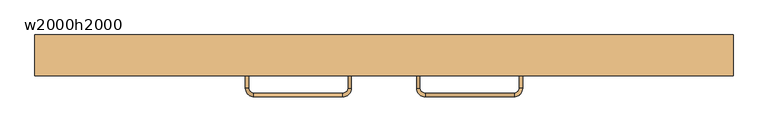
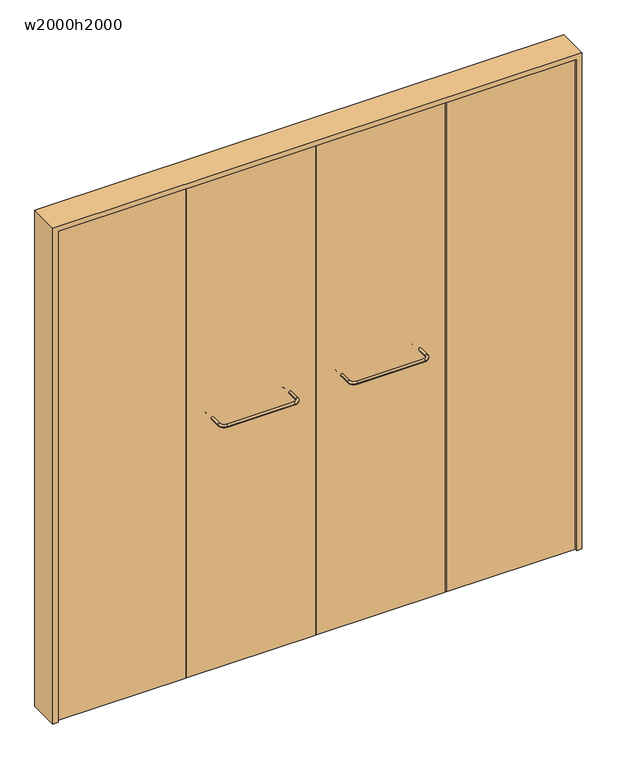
"""IFC4 building model written with IfcOpenShell, lengths in millimetres: door geometry, 木製折戸 : w2000h2000."""

from ifc_helpers import new_model, si_unit, point, frame, origin, origin_with_axes, place, context, project, spatial, polyline, circle_curve, ellipse_curve, trimmed, outline, extrude, source, transform, mapped, element, save
from ifc_brep_helpers import cylinder_surface, revolved_surface, advanced_brep


def w2000h2000_5dbb6d6a(model_context):
    return source(origin(), model_context, "Body", "SolidModel", [
        extrude(outline(polyline([(2020.0, -1020.0), (0.0, -1020.0), (0.0, -1000.0), (2000.0, -1000.0), (2000.0, 1000.0), (0.0, 1000.0), (0.0, 1020.0), (2020.0, 1020.0), (2020.0, -1020.0)])), frame((0.0, -60.0, 0.0), z_axis=(0.0, 1.0, 0.0), x_axis=(0.0, 0.0, 1.0)), (0.0, 0.0, 1.0), 120.0),
        extrude(outline(polyline([(498.0, -20.0), (498.0, -50.0), (2.0, -50.0), (2.0, -20.0), (498.0, -20.0)])), origin_with_axes(), (0.0, 0.0, 1.0), 2000.0),
        extrude(outline(polyline([(1000.0, -20.0), (1000.0, -50.0), (502.0, -50.0), (502.0, -20.0), (1000.0, -20.0)])), origin_with_axes(), (0.0, 0.0, 1.0), 2000.0),
        extrude(outline(polyline([(-2.0, -20.0), (-2.0, -50.0), (-498.0, -50.0), (-498.0, -20.0), (-2.0, -20.0)])), origin_with_axes(), (0.0, 0.0, 1.0), 2000.0),
        extrude(outline(polyline([(-502.0, -20.0), (-502.0, -50.0), (-1000.0, -50.0), (-1000.0, -20.0), (-502.0, -20.0)])), origin_with_axes(), (0.0, 0.0, 1.0), 2000.0),
        advanced_brep(
        [(95.0, -20.0, 1025.0), (105.0, -20.0, 1025.0), (120.0, -5.0, 1025.0), (120.0, 5.0, 1025.0), (95.0, -95.0, 1025.0), (105.0, -95.0, 1025.0), (120.0, -120.0, 1025.0), (120.0, -110.0, 1025.0), (380.0, -120.0, 1025.0), (380.0, -110.0, 1025.0), (405.0, -95.0, 1025.0), (395.0, -95.0, 1025.0), (405.0, -20.0, 1025.0), (395.0, -20.0, 1025.0), (380.0, 5.0, 1025.0), (380.0, -5.0, 1025.0)],
        [
            (0, 1, circle_curve(frame((100.0, -20.0, 1025.0), z_axis=(0.0, 1.0, 0.0), x_axis=(-1.0, 0.0, 0.0)), 5.0)),
            (1, 2, circle_curve(frame((120.0, -20.0, 1025.0), z_axis=(0.0, 0.0, -1.0), x_axis=(0.0, 1.0, 0.0)), 15.0)),
            (2, 3, circle_curve(frame((120.0, 0.0, 1025.0), z_axis=(-1.0, 0.0, 0.0), x_axis=(0.0, 1.0, 0.0)), 5.0)),
            (3, 0, circle_curve(frame((120.0, -20.0, 1025.0), z_axis=(0.0, 0.0, 1.0), x_axis=(0.0, 1.0, 0.0)), 25.0)),
            (1, 0, circle_curve(frame((100.0, -20.0, 1025.0), z_axis=(0.0, 1.0, 0.0), x_axis=(-1.0, 0.0, 0.0)), 5.0)),
            (3, 2, circle_curve(frame((120.0, 0.0, 1025.0), z_axis=(-1.0, 0.0, 0.0), x_axis=(0.0, 1.0, 0.0)), 5.0)),
            (0, 4),
            (4, 5, circle_curve(frame((100.0, -95.0, 1025.0), z_axis=(0.0, 1.0, 0.0), x_axis=(-1.0, 0.0, 0.0)), 5.0)),
            (5, 1),
            (5, 4, circle_curve(frame((100.0, -95.0, 1025.0), z_axis=(0.0, 1.0, 0.0), x_axis=(-1.0, 0.0, 0.0)), 5.0)),
            (6, 7, circle_curve(frame((120.0, -115.0, 1025.0), z_axis=(-1.0, 0.0, 0.0), x_axis=(0.0, -1.0, 0.0)), 5.0)),
            (7, 5, circle_curve(frame((120.0, -95.0, 1025.0), z_axis=(0.0, 0.0, -1.0), x_axis=(-1.0, 0.0, 0.0)), 15.0)),
            (4, 6, circle_curve(frame((120.0, -95.0, 1025.0), z_axis=(0.0, 0.0, 1.0), x_axis=(-1.0, 0.0, 0.0)), 25.0)),
            (7, 6, circle_curve(frame((120.0, -115.0, 1025.0), z_axis=(-1.0, 0.0, 0.0), x_axis=(0.0, -1.0, 0.0)), 5.0)),
            (6, 8),
            (8, 9, circle_curve(frame((380.0, -115.0, 1025.0), z_axis=(-1.0, 0.0, 0.0), x_axis=(0.0, -1.0, 0.0)), 5.0)),
            (9, 7),
            (9, 8, circle_curve(frame((380.0, -115.0, 1025.0), z_axis=(-1.0, 0.0, 0.0), x_axis=(0.0, -1.0, 0.0)), 5.0)),
            (10, 11, circle_curve(frame((400.0, -95.0, 1025.0), z_axis=(0.0, -1.0, 0.0), x_axis=(1.0, 0.0, 0.0)), 5.0)),
            (11, 9, circle_curve(frame((380.0, -95.0, 1025.0), z_axis=(0.0, 0.0, -1.0), x_axis=(0.0, -1.0, 0.0)), 15.0)),
            (8, 10, circle_curve(frame((380.0, -95.0, 1025.0), z_axis=(0.0, 0.0, 1.0), x_axis=(0.0, -1.0, 0.0)), 25.0)),
            (11, 10, circle_curve(frame((400.0, -95.0, 1025.0), z_axis=(0.0, -1.0, 0.0), x_axis=(1.0, 0.0, 0.0)), 5.0)),
            (10, 12),
            (12, 13, circle_curve(frame((400.0, -20.0, 1025.0), z_axis=(0.0, -1.0, 0.0), x_axis=(1.0, 0.0, 0.0)), 5.0)),
            (13, 11),
            (13, 12, circle_curve(frame((400.0, -20.0, 1025.0), z_axis=(0.0, -1.0, 0.0), x_axis=(1.0, 0.0, 0.0)), 5.0)),
            (14, 15, circle_curve(frame((380.0, 0.0, 1025.0), z_axis=(1.0, 0.0, 0.0), x_axis=(0.0, 1.0, 0.0)), 5.0)),
            (15, 13, circle_curve(frame((380.0, -20.0, 1025.0), z_axis=(0.0, 0.0, -1.0), x_axis=(1.0, 0.0, 0.0)), 15.0)),
            (12, 14, circle_curve(frame((380.0, -20.0, 1025.0), z_axis=(0.0, 0.0, 1.0), x_axis=(1.0, 0.0, 0.0)), 25.0)),
            (15, 14, circle_curve(frame((380.0, 0.0, 1025.0), z_axis=(1.0, 0.0, 0.0), x_axis=(0.0, 1.0, 0.0)), 5.0)),
            (14, 3),
            (2, 15),
        ],
        [
            revolved_surface(trimmed(ellipse_curve(frame((120.0, 0.0, 1025.0), z_axis=(-1.0, 0.0, 0.0), x_axis=(0.0, 1.0, 0.0)), 5.0, 5.0), [point((120.0, -5.0, 1025.0))], [point((120.0, 5.0, 1025.0))], True, "CARTESIAN"), (120.0, -20.0, 0.0), (0.0, 0.0, -1.0)),
            revolved_surface(trimmed(ellipse_curve(frame((120.0, 0.0, 1025.0), z_axis=(-1.0, 0.0, 0.0), x_axis=(0.0, 1.0, 0.0)), 5.0, 5.0), [point((120.0, 5.0, 1025.0))], [point((120.0, -5.0, 1025.0))], True, "CARTESIAN"), (120.0, -20.0, 0.0), (0.0, 0.0, -1.0)),
            cylinder_surface(frame((100.0, -20.0, 1025.0), z_axis=(0.0, 1.0, 0.0), x_axis=(-1.0, 0.0, 0.0)), 5.0),
            revolved_surface(trimmed(ellipse_curve(frame((100.0, -95.0, 1025.0), z_axis=(0.0, -1.0, 0.0), x_axis=(-1.0, 0.0, 0.0)), 5.0, 5.0), [point((105.0, -95.0, 1025.0))], [point((95.0, -95.0, 1025.0))], True, "CARTESIAN"), (120.0, -95.0, 0.0), (0.0, 0.0, -1.0)),
            revolved_surface(trimmed(ellipse_curve(frame((100.0, -95.0, 1025.0), z_axis=(0.0, -1.0, 0.0), x_axis=(-1.0, 0.0, 0.0)), 5.0, 5.0), [point((95.0, -95.0, 1025.0))], [point((105.0, -95.0, 1025.0))], True, "CARTESIAN"), (120.0, -95.0, 0.0), (0.0, 0.0, -1.0)),
            cylinder_surface(frame((120.0, -115.0, 1025.0), z_axis=(-1.0, 0.0, 0.0), x_axis=(0.0, -1.0, 0.0)), 5.0),
            revolved_surface(trimmed(ellipse_curve(frame((380.0, -115.0, 1025.0), z_axis=(1.0, 0.0, 0.0), x_axis=(0.0, -1.0, 0.0)), 5.0, 5.0), [point((380.0, -110.0, 1025.0))], [point((380.0, -120.0, 1025.0))], True, "CARTESIAN"), (380.0, -95.0, 0.0), (0.0, 0.0, -1.0)),
            revolved_surface(trimmed(ellipse_curve(frame((380.0, -115.0, 1025.0), z_axis=(1.0, 0.0, 0.0), x_axis=(0.0, -1.0, 0.0)), 5.0, 5.0), [point((380.0, -120.0, 1025.0))], [point((380.0, -110.0, 1025.0))], True, "CARTESIAN"), (380.0, -95.0, 0.0), (0.0, 0.0, -1.0)),
            cylinder_surface(frame((400.0, -95.0, 1025.0), z_axis=(0.0, -1.0, 0.0), x_axis=(1.0, 0.0, 0.0)), 5.0),
            revolved_surface(trimmed(ellipse_curve(frame((400.0, -20.0, 1025.0), z_axis=(0.0, 1.0, 0.0), x_axis=(1.0, 0.0, 0.0)), 5.0, 5.0), [point((395.0, -20.0, 1025.0))], [point((405.0, -20.0, 1025.0))], True, "CARTESIAN"), (380.0, -20.0, 0.0), (0.0, 0.0, -1.0)),
            revolved_surface(trimmed(ellipse_curve(frame((400.0, -20.0, 1025.0), z_axis=(0.0, 1.0, 0.0), x_axis=(1.0, 0.0, 0.0)), 5.0, 5.0), [point((405.0, -20.0, 1025.0))], [point((395.0, -20.0, 1025.0))], True, "CARTESIAN"), (380.0, -20.0, 0.0), (0.0, 0.0, -1.0)),
            cylinder_surface(frame((380.0, 0.0, 1025.0), z_axis=(1.0, 0.0, 0.0), x_axis=(0.0, 1.0, 0.0)), 5.0),
        ],
        [
            (0, [[1, 2, 3, 4]]),
            (1, [[5, -4, 6, -2]]),
            (2, [[7, 8, 9, -1]]),
            (2, [[-9, 10, -7, -5]]),
            (3, [[11, 12, -8, 13]]),
            (4, [[14, -13, -10, -12]]),
            (5, [[15, 16, 17, -11]]),
            (5, [[-17, 18, -15, -14]]),
            (6, [[19, 20, -16, 21]]),
            (7, [[22, -21, -18, -20]]),
            (8, [[23, 24, 25, -19]]),
            (8, [[-25, 26, -23, -22]]),
            (9, [[27, 28, -24, 29]]),
            (10, [[30, -29, -26, -28]]),
            (11, [[31, -3, 32, -27]]),
            (11, [[-32, -6, -31, -30]]),
        ],
    ),
        advanced_brep(
        [(-105.0, -20.0, 1025.0), (-95.0, -20.0, 1025.0), (-120.0, 5.0, 1025.0), (-120.0, -5.0, 1025.0), (-105.0, -95.0, 1025.0), (-95.0, -95.0, 1025.0), (-120.0, -110.0, 1025.0), (-120.0, -120.0, 1025.0), (-380.0, -110.0, 1025.0), (-380.0, -120.0, 1025.0), (-395.0, -95.0, 1025.0), (-405.0, -95.0, 1025.0), (-395.0, -20.0, 1025.0), (-405.0, -20.0, 1025.0), (-380.0, -5.0, 1025.0), (-380.0, 5.0, 1025.0)],
        [
            (0, 1, circle_curve(frame((-100.0, -20.0, 1025.0), z_axis=(0.0, 1.0, 0.0), x_axis=(-1.0, 0.0, 0.0)), 5.0)),
            (1, 2, circle_curve(frame((-120.0, -20.0, 1025.0), z_axis=(0.0, 0.0, 1.0), x_axis=(0.0, 1.0, 0.0)), 25.0)),
            (2, 3, circle_curve(frame((-120.0, 0.0, 1025.0), z_axis=(1.0, 0.0, 0.0), x_axis=(0.0, -1.0, 0.0)), 5.0)),
            (3, 0, circle_curve(frame((-120.0, -20.0, 1025.0), z_axis=(0.0, 0.0, -1.0), x_axis=(0.0, 1.0, 0.0)), 15.0)),
            (1, 0, circle_curve(frame((-100.0, -20.0, 1025.0), z_axis=(0.0, 1.0, 0.0), x_axis=(-1.0, 0.0, 0.0)), 5.0)),
            (3, 2, circle_curve(frame((-120.0, 0.0, 1025.0), z_axis=(1.0, 0.0, 0.0), x_axis=(0.0, -1.0, 0.0)), 5.0)),
            (0, 4),
            (4, 5, circle_curve(frame((-100.0, -95.0, 1025.0), z_axis=(0.0, 1.0, 0.0), x_axis=(-1.0, 0.0, 0.0)), 5.0)),
            (5, 1),
            (5, 4, circle_curve(frame((-100.0, -95.0, 1025.0), z_axis=(0.0, 1.0, 0.0), x_axis=(-1.0, 0.0, 0.0)), 5.0)),
            (6, 7, circle_curve(frame((-120.0, -115.0, 1025.0), z_axis=(1.0, 0.0, 0.0), x_axis=(0.0, 1.0, 0.0)), 5.0)),
            (7, 5, circle_curve(frame((-120.0, -95.0, 1025.0), z_axis=(0.0, 0.0, 1.0), x_axis=(1.0, 0.0, 0.0)), 25.0)),
            (4, 6, circle_curve(frame((-120.0, -95.0, 1025.0), z_axis=(0.0, 0.0, -1.0), x_axis=(1.0, 0.0, 0.0)), 15.0)),
            (7, 6, circle_curve(frame((-120.0, -115.0, 1025.0), z_axis=(1.0, 0.0, 0.0), x_axis=(0.0, 1.0, 0.0)), 5.0)),
            (6, 8),
            (8, 9, circle_curve(frame((-380.0, -115.0, 1025.0), z_axis=(1.0, 0.0, 0.0), x_axis=(0.0, 1.0, 0.0)), 5.0)),
            (9, 7),
            (9, 8, circle_curve(frame((-380.0, -115.0, 1025.0), z_axis=(1.0, 0.0, 0.0), x_axis=(0.0, 1.0, 0.0)), 5.0)),
            (10, 11, circle_curve(frame((-400.0, -95.0, 1025.0), z_axis=(0.0, -1.0, 0.0), x_axis=(1.0, 0.0, 0.0)), 5.0)),
            (11, 9, circle_curve(frame((-380.0, -95.0, 1025.0), z_axis=(0.0, 0.0, 1.0), x_axis=(0.0, -1.0, 0.0)), 25.0)),
            (8, 10, circle_curve(frame((-380.0, -95.0, 1025.0), z_axis=(0.0, 0.0, -1.0), x_axis=(0.0, -1.0, 0.0)), 15.0)),
            (11, 10, circle_curve(frame((-400.0, -95.0, 1025.0), z_axis=(0.0, -1.0, 0.0), x_axis=(1.0, 0.0, 0.0)), 5.0)),
            (10, 12),
            (12, 13, circle_curve(frame((-400.0, -20.0, 1025.0), z_axis=(0.0, -1.0, 0.0), x_axis=(1.0, 0.0, 0.0)), 5.0)),
            (13, 11),
            (13, 12, circle_curve(frame((-400.0, -20.0, 1025.0), z_axis=(0.0, -1.0, 0.0), x_axis=(1.0, 0.0, 0.0)), 5.0)),
            (14, 15, circle_curve(frame((-380.0, 0.0, 1025.0), z_axis=(-1.0, 0.0, 0.0), x_axis=(0.0, -1.0, 0.0)), 5.0)),
            (15, 13, circle_curve(frame((-380.0, -20.0, 1025.0), z_axis=(0.0, 0.0, 1.0), x_axis=(-1.0, 0.0, 0.0)), 25.0)),
            (12, 14, circle_curve(frame((-380.0, -20.0, 1025.0), z_axis=(0.0, 0.0, -1.0), x_axis=(-1.0, 0.0, 0.0)), 15.0)),
            (15, 14, circle_curve(frame((-380.0, 0.0, 1025.0), z_axis=(-1.0, 0.0, 0.0), x_axis=(0.0, -1.0, 0.0)), 5.0)),
            (14, 3),
            (2, 15),
        ],
        [
            revolved_surface(trimmed(ellipse_curve(frame((-120.0, 0.0, 1025.0), z_axis=(1.0, 0.0, 0.0), x_axis=(0.0, -1.0, 0.0)), 5.0, 5.0), [point((-120.0, 5.0, 1025.0))], [point((-120.0, -5.0, 1025.0))], True, "CARTESIAN"), (-120.0, -20.0, 0.0), (0.0, 0.0, 1.0)),
            revolved_surface(trimmed(ellipse_curve(frame((-120.0, 0.0, 1025.0), z_axis=(1.0, 0.0, 0.0), x_axis=(0.0, -1.0, 0.0)), 5.0, 5.0), [point((-120.0, -5.0, 1025.0))], [point((-120.0, 5.0, 1025.0))], True, "CARTESIAN"), (-120.0, -20.0, 0.0), (0.0, 0.0, 1.0)),
            cylinder_surface(frame((-100.0, -20.0, 1025.0), z_axis=(0.0, 1.0, 0.0), x_axis=(-1.0, 0.0, 0.0)), 5.0),
            revolved_surface(trimmed(ellipse_curve(frame((-100.0, -95.0, 1025.0), z_axis=(0.0, -1.0, 0.0), x_axis=(-1.0, 0.0, 0.0)), 5.0, 5.0), [point((-95.0, -95.0, 1025.0))], [point((-105.0, -95.0, 1025.0))], True, "CARTESIAN"), (-120.0, -95.0, 0.0), (0.0, 0.0, 1.0)),
            revolved_surface(trimmed(ellipse_curve(frame((-100.0, -95.0, 1025.0), z_axis=(0.0, -1.0, 0.0), x_axis=(-1.0, 0.0, 0.0)), 5.0, 5.0), [point((-105.0, -95.0, 1025.0))], [point((-95.0, -95.0, 1025.0))], True, "CARTESIAN"), (-120.0, -95.0, 0.0), (0.0, 0.0, 1.0)),
            cylinder_surface(frame((-120.0, -115.0, 1025.0), z_axis=(1.0, 0.0, 0.0), x_axis=(0.0, 1.0, 0.0)), 5.0),
            revolved_surface(trimmed(ellipse_curve(frame((-380.0, -115.0, 1025.0), z_axis=(-1.0, 0.0, 0.0), x_axis=(0.0, 1.0, 0.0)), 5.0, 5.0), [point((-380.0, -120.0, 1025.0))], [point((-380.0, -110.0, 1025.0))], True, "CARTESIAN"), (-380.0, -95.0, 0.0), (0.0, 0.0, 1.0)),
            revolved_surface(trimmed(ellipse_curve(frame((-380.0, -115.0, 1025.0), z_axis=(-1.0, 0.0, 0.0), x_axis=(0.0, 1.0, 0.0)), 5.0, 5.0), [point((-380.0, -110.0, 1025.0))], [point((-380.0, -120.0, 1025.0))], True, "CARTESIAN"), (-380.0, -95.0, 0.0), (0.0, 0.0, 1.0)),
            cylinder_surface(frame((-400.0, -95.0, 1025.0), z_axis=(0.0, -1.0, 0.0), x_axis=(1.0, 0.0, 0.0)), 5.0),
            revolved_surface(trimmed(ellipse_curve(frame((-400.0, -20.0, 1025.0), z_axis=(0.0, 1.0, 0.0), x_axis=(1.0, 0.0, 0.0)), 5.0, 5.0), [point((-405.0, -20.0, 1025.0))], [point((-395.0, -20.0, 1025.0))], True, "CARTESIAN"), (-380.0, -20.0, 0.0), (0.0, 0.0, 1.0)),
            revolved_surface(trimmed(ellipse_curve(frame((-400.0, -20.0, 1025.0), z_axis=(0.0, 1.0, 0.0), x_axis=(1.0, 0.0, 0.0)), 5.0, 5.0), [point((-395.0, -20.0, 1025.0))], [point((-405.0, -20.0, 1025.0))], True, "CARTESIAN"), (-380.0, -20.0, 0.0), (0.0, 0.0, 1.0)),
            cylinder_surface(frame((-380.0, 0.0, 1025.0), z_axis=(-1.0, 0.0, 0.0), x_axis=(0.0, -1.0, 0.0)), 5.0),
        ],
        [
            (0, [[1, 2, 3, 4]]),
            (1, [[5, -4, 6, -2]]),
            (2, [[7, 8, 9, -1]]),
            (2, [[-9, 10, -7, -5]]),
            (3, [[11, 12, -8, 13]]),
            (4, [[14, -13, -10, -12]]),
            (5, [[15, 16, 17, -11]]),
            (5, [[-17, 18, -15, -14]]),
            (6, [[19, 20, -16, 21]]),
            (7, [[22, -21, -18, -20]]),
            (8, [[23, 24, 25, -19]]),
            (8, [[-25, 26, -23, -22]]),
            (9, [[27, 28, -24, 29]]),
            (10, [[30, -29, -26, -28]]),
            (11, [[31, -3, 32, -27]]),
            (11, [[-32, -6, -31, -30]]),
        ],
    ),
    ])


if __name__ == "__main__":
    model = new_model("IFC4")
    model_context = context("Model", 3, world=origin())
    ifc_project = project(units=[si_unit("LENGTHUNIT", "METRE", prefix="MILLI")], contexts=[model_context])
    site = spatial("IfcSite", under=ifc_project)
    building = spatial("IfcBuilding", under=site)
    placement = place(None, origin())
    w2000h2000_shape = w2000h2000_5dbb6d6a(model_context)
    element("IfcDoor", 1, ObjectType="木製折戸 : w2000h2000", at=placement, inside=building, context=model_context, shape_type="MappedRepresentation", body=[
        mapped(w2000h2000_shape, transform((0.0, 0.0, 0.0), x_axis=(1.0, 0.0, 0.0), y_axis=(0.0, 1.0, 0.0), z_axis=(0.0, 0.0, 1.0))),
    ])
    save(model, "model.ifc")
